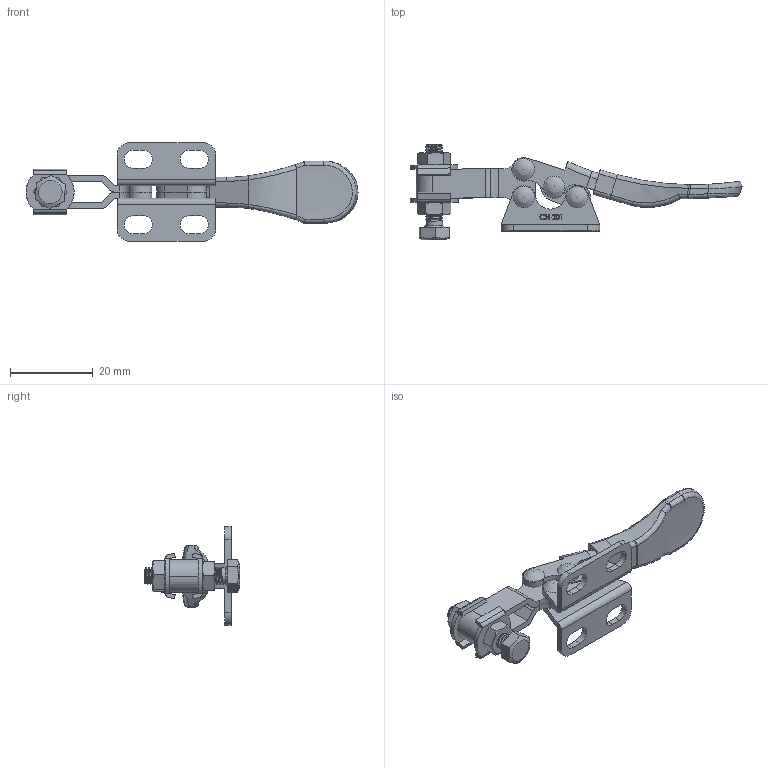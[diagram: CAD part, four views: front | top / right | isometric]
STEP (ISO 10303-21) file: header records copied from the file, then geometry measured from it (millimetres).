
FILE_DESCRIPTION(/* description */ ('STEP AP203'),/* implementation_level */ '2;1');
FILE_NAME(/* name */ 'E:\STRONA\Horizontal toggle clamp\CH-201\CH-201_ZAMKNIETY.stp',/* time_stamp */ '2019-01-15T11:55:07+01:00',/* author */ ('Admin'),/* organization */ ('Î¢ÈíÖÐ¹ú'),/* preprocessor_version */ 'ST-DEVELOPER v17.2',/* originating_system */ 'Autodesk Inventor 2019',/* authorisation */ '');
FILE_SCHEMA (('AUTOMOTIVE_DESIGN { 1 0 10303 214 3 1 1 }'));
Length unit declared in the file: millimetre
Products named in the file (11): CH-201_ZAMKNIETY; CH-201-02 U-BAR; CH-201-03 HANDLE; CH-201-A-03; CH-201-A-05; CH-SA-042007 SPINDLE SUPPLIED; CH-201-01 FLANGED BASE; M4 Nut; CH-201-A-04; CH-FW-080; CH-201-A-06
Assembly tree (16 placements, depth 3):
  CH-201_ZAMKNIETY
    CH-201-02 U-BAR
    CH-FW-080  x2
    CH-201-A-06  x4
    CH-201-A-04  x2
    CH-201-03 HANDLE
      CH-201-A-03
      CH-201-A-05
    M4 Nut  x2
    CH-SA-042007 SPINDLE SUPPLIED
    CH-201-01 FLANGED BASE
Bounding box: 80.11 x 23.03 x 23.8 mm (x, y, z)
Volume: 4579.9 mm3; surface area: 8645.4 mm2
Topology: 17 solids, 17 shells, 631 faces, 1727 edges, 1151 vertices
Faces by surface type: plane 267, bspline 180, cylinder 145, torus 19, cone 14, sphere 6
Full cylindrical faces by diameter (mm): 0.514 x1, 0.586 x1, 2.4 x4, 3 x20, 3.2 x4, 4 x26, 4.3 x2
Entity records: 41121 total; most frequent: CARTESIAN_POINT 27351, ORIENTED_EDGE 3112, DIRECTION 2214, EDGE_CURVE 1556, VERTEX_POINT 1038, LINE 820, VECTOR 820, AXIS2_PLACEMENT_3D 697
